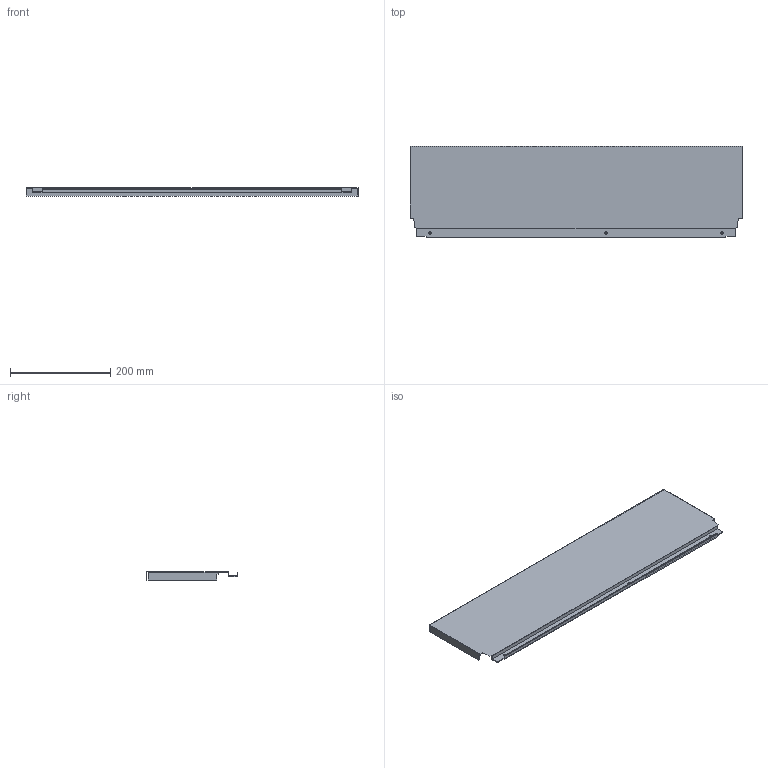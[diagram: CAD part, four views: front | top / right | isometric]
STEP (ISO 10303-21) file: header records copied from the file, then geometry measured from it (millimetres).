
FILE_DESCRIPTION (( 'STEP AP214' ), '1' );
FILE_NAME ('_DWD_XP Stahlrückwand_H182_KAB750_S18.step', '2010-07-08T12:57:57', ( 'grass' ), ( '' ), 'SwSTEP 2.0', 'SolidWorks 2010', '' );
FILE_SCHEMA (( 'AUTOMOTIVE_DESIGN' ));
Length unit declared in the file: millimetre
Products named in the file (1): _DWD_XP Stahlrückwand_H182_KAB750_S18
Bounding box: 663 x 182.49 x 16 mm (x, y, z)
Volume: 124663.1 mm3; surface area: 288678.4 mm2
Topology: 1 solids, 1 shells, 46 faces, 132 edges, 88 vertices
Faces by surface type: plane 40, cylinder 6
Entity records: 1534 total; most frequent: CARTESIAN_POINT 267, ORIENTED_EDGE 264, DIRECTION 238, EDGE_CURVE 132, LINE 120, VECTOR 120, VERTEX_POINT 88, AXIS2_PLACEMENT_3D 59
